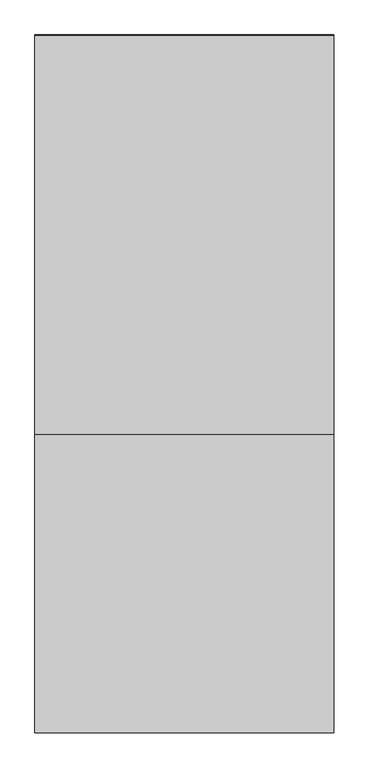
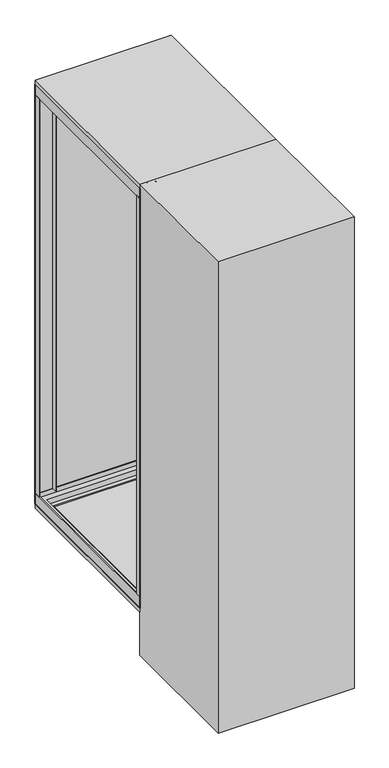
"""IFC4 building model written with IfcOpenShell, lengths in millimetres: electric distribution board geometry, НВО_ШкафНапольный_DKC : 800х600х2000 (ГхШхВ) мм."""

from ifc_helpers import new_model, si_unit, point, frame, frame_2d, origin, origin_with_axes, place, context, project, spatial, polyline, circle_curve, trimmed, segment, composite_curve, outline, extrude, faceted_brep, source, transform, mapped, element, save


def electric_distribution_board_93b78c7d(model_context):
    return source(origin(), model_context, "Body", "SolidModel", [
        extrude(outline(composite_curve([segment(polyline([(2185.2522548, -260.4361714), (2185.2522548, -252.7599567)]), True, "CONTINUOUS"), segment(trimmed(circle_curve(frame_2d((2194.6374537, -252.7599567)), 9.3851989), [point((2185.2522548, -252.7599567))], [point((2185.9237849, -249.2737072))], False, "CARTESIAN"), True, "CONTINUOUS"), segment(trimmed(circle_curve(frame_2d((2190.4697033, -251.0924825)), 4.8962555), [point((2185.9237849, -249.2737072))], [point((2190.0, -246.2188087))], False, "CARTESIAN"), True, "CONTINUOUS"), segment(trimmed(circle_curve(frame_2d((2189.5302967, -251.0924825)), 4.8962555), [point((2190.0, -246.2188087))], [point((2194.0762151, -249.2737072))], False, "CARTESIAN"), True, "CONTINUOUS"), segment(trimmed(circle_curve(frame_2d((2185.3625463, -252.7599567)), 9.3851989), [point((2194.0762151, -249.2737072))], [point((2194.7477452, -252.7599567))], False, "CARTESIAN"), True, "CONTINUOUS"), segment(polyline([(2194.7477452, -252.7599567), (2194.7477452, -260.4361714), (2185.2522548, -260.4361714)]), True, "CONTINUOUS")], self_intersect=False), holes=[composite_curve([segment(polyline([(2193.4305842, -256.8662202), (2193.4305842, -254.3065187)]), True, "CONTINUOUS"), segment(trimmed(circle_curve(frame_2d((2185.7124901, -254.3065187)), 7.7180942), [point((2193.4305842, -254.3065187))], [point((2192.8023319, -251.256417))], True, "CARTESIAN"), True, "CONTINUOUS"), segment(trimmed(circle_curve(frame_2d((2191.0797503, -251.9974842)), 1.8752248), [point((2192.8023319, -251.256417))], [point((2191.4095765, -250.1514932))], True, "CARTESIAN"), True, "CONTINUOUS"), segment(trimmed(circle_curve(frame_2d((2189.6204625, -260.1649135)), 10.1719966), [point((2191.4095765, -250.1514932))], [point((2190.0, -250.0))], True, "CARTESIAN"), True, "CONTINUOUS"), segment(trimmed(circle_curve(frame_2d((2190.3795375, -260.1649135)), 10.1719966), [point((2190.0, -250.0))], [point((2188.5904235, -250.1514932))], True, "CARTESIAN"), True, "CONTINUOUS"), segment(trimmed(circle_curve(frame_2d((2188.9202497, -251.9974842)), 1.8752248), [point((2188.5904235, -250.1514932))], [point((2187.1976681, -251.256417))], True, "CARTESIAN"), True, "CONTINUOUS"), segment(trimmed(circle_curve(frame_2d((2194.2875099, -254.3065187)), 7.7180942), [point((2187.1976681, -251.256417))], [point((2186.5694158, -254.3065187))], True, "CARTESIAN"), True, "CONTINUOUS"), segment(polyline([(2186.5694158, -254.3065187), (2186.5694158, -256.8662202), (2193.4305842, -256.8662202)]), True, "CONTINUOUS")], self_intersect=False)]), frame((0.0, -802.0, 0.0), z_axis=(0.0, 1.0, 0.0), x_axis=(0.0, 0.0, 1.0)), (0.0, 0.0, 1.0), 2.0),
        extrude(outline(polyline([(2194.7477452, -244.3848727), (2185.2522548, -244.3848727), (2185.2522548, -240.9908575), (2189.2401383, -240.9908575), (2185.2522548, -236.444158), (2185.2522548, -232.3120204), (2190.5384249, -238.1731846), (2194.7477452, -232.4434669), (2194.7477452, -235.0016173), (2190.2876655, -241.0245618), (2194.7477452, -241.0245618), (2194.7477452, -244.3848727)])), frame((0.0, -802.0, 0.0), z_axis=(0.0, 1.0, 0.0), x_axis=(0.0, 0.0, 1.0)), (0.0, 0.0, 1.0), 2.0),
        extrude(outline(composite_curve([segment(trimmed(circle_curve(frame_2d((2180.0078894, -224.3366932)), 14.8634972), [point((2194.0743349, -219.5347498))], [point((2194.6196872, -227.0604615))], False, "CARTESIAN"), True, "CONTINUOUS"), segment(trimmed(circle_curve(frame_2d((2182.9596787, -224.8869328)), 11.860861), [point((2194.6196872, -227.0604615))], [point((2193.3117677, -230.6760845))], False, "CARTESIAN"), True, "CONTINUOUS"), segment(trimmed(circle_curve(frame_2d((2188.8392604, -228.1749446)), 5.1243559), [point((2193.3117677, -230.6760845))], [point((2191.6421758, -232.46478))], False, "CARTESIAN"), True, "CONTINUOUS"), segment(trimmed(circle_curve(frame_2d((2190.1147571, -230.1270803)), 2.7924627), [point((2191.6421758, -232.46478))], [point((2190.0, -232.917184))], False, "CARTESIAN"), True, "CONTINUOUS"), segment(trimmed(circle_curve(frame_2d((2190.1764499, -228.6271352)), 4.2936759), [point((2190.0, -232.917184))], [point((2186.4762827, -230.8053031))], False, "CARTESIAN"), True, "CONTINUOUS"), segment(trimmed(circle_curve(frame_2d((2196.6930797, -224.7910077)), 11.8555763), [point((2186.4762827, -230.8053031))], [point((2185.7901742, -220.134685))], False, "CARTESIAN"), True, "CONTINUOUS"), segment(polyline([(2185.7901742, -220.134685), (2187.2760981, -219.6190256)]), True, "CONTINUOUS"), segment(trimmed(circle_curve(frame_2d((2193.3401731, -223.6307387)), 7.2709591), [point((2187.2760981, -219.6190256))], [point((2187.5933204, -228.0850098))], True, "CARTESIAN"), True, "CONTINUOUS"), segment(trimmed(circle_curve(frame_2d((2189.8135247, -226.3641737)), 2.8090184), [point((2187.5933204, -228.0850098))], [point((2190.8831991, -228.9615532))], True, "CARTESIAN"), True, "CONTINUOUS"), segment(trimmed(circle_curve(frame_2d((2189.3581346, -225.2583969)), 4.0048956), [point((2190.8831991, -228.9615532))], [point((2192.8847256, -227.1563813))], True, "CARTESIAN"), True, "CONTINUOUS"), segment(trimmed(circle_curve(frame_2d((2187.4021495, -224.2057006)), 6.2261671), [point((2192.8847256, -227.1563813))], [point((2192.1645049, -220.1950738))], True, "CARTESIAN"), True, "CONTINUOUS"), segment(polyline([(2192.1645049, -220.1950738), (2194.0743349, -219.5347498)]), True, "CONTINUOUS")], self_intersect=False)), frame((0.0, -802.0, 0.0), z_axis=(0.0, 1.0, 0.0), x_axis=(0.0, 0.0, 1.0)), (0.0, 0.0, 1.0), 2.0),
        extrude(outline(composite_curve([segment(trimmed(circle_curve(frame_2d((2193.9810141, -266.8556522)), 0.7712407), [point((2193.9810141, -266.0844115))], [point((2194.7522548, -266.8556522))], False, "CARTESIAN"), True, "CONTINUOUS"), segment(polyline([(2194.7522548, -266.8556522), (2194.7522548, -278.8921838)]), True, "CONTINUOUS"), segment(trimmed(circle_curve(frame_2d((2193.7482214, -278.8921838)), 1.0040334), [point((2194.7522548, -278.8921838))], [point((2193.7482214, -279.8962172))], False, "CARTESIAN"), True, "CONTINUOUS"), segment(polyline([(2193.7482214, -279.8962172), (2186.2525173, -279.8962172)]), True, "CONTINUOUS"), segment(trimmed(circle_curve(frame_2d((2186.2525173, -278.8959546)), 1.0002626), [point((2186.2525173, -279.8962172))], [point((2185.2522548, -278.8959546))], False, "CARTESIAN"), True, "CONTINUOUS"), segment(polyline([(2185.2522548, -278.8959546), (2185.2522548, -266.7257862)]), True, "CONTINUOUS"), segment(trimmed(circle_curve(frame_2d((2190.1985482, -266.7257862)), 4.9462935), [point((2185.2522548, -266.7257862))], [point((2187.2967122, -262.7201443))], False, "CARTESIAN"), True, "CONTINUOUS"), segment(polyline([(2187.2967122, -262.7201443), (2188.5784181, -262.7201443)]), True, "CONTINUOUS"), segment(trimmed(circle_curve(frame_2d((2193.048804, -267.7500222)), 6.7293403), [point((2188.5784181, -262.7201443))], [point((2188.5784181, -272.7799001))], True, "CARTESIAN"), True, "CONTINUOUS"), segment(polyline([(2188.5784181, -272.7799001), (2187.524661, -272.7799001)]), True, "CONTINUOUS"), segment(trimmed(circle_curve(frame_2d((2187.9883644, -270.8520843)), 1.9827998), [point((2187.524661, -272.7799001))], [point((2186.0055647, -270.8520843))], False, "CARTESIAN"), True, "CONTINUOUS"), segment(polyline([(2186.0055647, -270.8520843), (2186.0055647, -276.7056091), (2193.9989449, -276.7056091), (2193.9989449, -267.2764216), (2193.1225561, -267.2764216), (2193.1225561, -266.0844115), (2193.9810141, -266.0844115)]), True, "CONTINUOUS")], self_intersect=False)), frame((0.0, -802.0, 0.0), z_axis=(0.0, 1.0, 0.0), x_axis=(0.0, 0.0, 1.0)), (0.0, 0.0, 1.0), 2.0),
        extrude(outline(composite_curve([segment(polyline([(2189.1735802, -262.7201443), (2189.9609475, -262.7201443)]), True, "CONTINUOUS"), segment(trimmed(circle_curve(frame_2d((2195.0528216, -267.7500222)), 7.1572937), [point((2189.9609475, -262.7201443))], [point((2189.9609475, -272.7799001))], True, "CARTESIAN"), True, "CONTINUOUS"), segment(polyline([(2189.9609475, -272.7799001), (2189.1735802, -272.7799001)]), True, "CONTINUOUS"), segment(trimmed(circle_curve(frame_2d((2193.6469573, -267.7500222)), 6.7313279), [point((2189.1735802, -272.7799001))], [point((2189.1735802, -262.7201443))], False, "CARTESIAN"), True, "CONTINUOUS")], self_intersect=False)), frame((0.0, -802.0, 0.0), z_axis=(0.0, 1.0, 0.0), x_axis=(0.0, 0.0, 1.0)), (0.0, 0.0, 1.0), 2.0),
        extrude(outline(composite_curve([segment(trimmed(circle_curve(frame_2d((2185.6681942, -267.6745713)), 5.9267817), [point((2189.8365314, -263.4612939))], [point((2189.892123, -271.8321146))], False, "CARTESIAN"), True, "CONTINUOUS"), segment(polyline([(2189.892123, -271.8321146), (2189.3386839, -271.2786755)]), True, "CONTINUOUS"), segment(trimmed(circle_curve(frame_2d((2184.0800223, -267.6967539)), 6.3626791), [point((2189.3386839, -271.2786755))], [point((2189.3386839, -264.1148323))], True, "CARTESIAN"), True, "CONTINUOUS"), segment(polyline([(2189.3386839, -264.1148323), (2189.8365314, -263.4612939)]), True, "CONTINUOUS")], self_intersect=False)), frame((0.0, -802.0, 0.0), z_axis=(0.0, 1.0, 0.0), x_axis=(0.0, 0.0, 1.0)), (0.0, 0.0, 1.0), 2.0),
        extrude(outline(composite_curve([segment(trimmed(circle_curve(frame_2d((2183.5765057, -267.7053491)), 6.5304546), [point((2189.2646248, -264.4972128))], [point((2189.2646248, -270.9134855))], False, "CARTESIAN"), True, "CONTINUOUS"), segment(polyline([(2189.2646248, -270.9134855), (2188.9146088, -270.0681193)]), True, "CONTINUOUS"), segment(trimmed(circle_curve(frame_2d((2182.4429647, -267.6966214)), 6.8924726), [point((2188.9146088, -270.0681193))], [point((2188.9146088, -265.3251236))], True, "CARTESIAN"), True, "CONTINUOUS"), segment(polyline([(2188.9146088, -265.3251236), (2189.2646248, -264.4972128)]), True, "CONTINUOUS")], self_intersect=False)), frame((0.0, -802.0, 0.0), z_axis=(0.0, 1.0, 0.0), x_axis=(0.0, 0.0, 1.0)), (0.0, 0.0, 1.0), 2.0),
        extrude(outline(composite_curve([segment(polyline([(2189.9744254, -263.3219133), (2190.6884044, -262.6079342)]), True, "CONTINUOUS"), segment(trimmed(circle_curve(frame_2d((2185.6681942, -267.6745713)), 7.1325536), [point((2190.6884044, -262.6079342))], [point((2190.7458455, -272.683641))], False, "CARTESIAN"), True, "CONTINUOUS"), segment(polyline([(2190.7458455, -272.683641), (2190.031856, -271.9696515)]), True, "CONTINUOUS"), segment(trimmed(circle_curve(frame_2d((2185.6681942, -267.6745713)), 6.1228472), [point((2190.031856, -271.9696515))], [point((2189.9744254, -263.3219133))], True, "CARTESIAN"), True, "CONTINUOUS")], self_intersect=False)), frame((0.0, -802.0, 0.0), z_axis=(0.0, 1.0, 0.0), x_axis=(0.0, 0.0, 1.0)), (0.0, 0.0, 1.0), 2.0),
        extrude(outline(polyline([(298.0, -798.0), (223.0, -798.0), (223.0, -773.0), (225.0, -773.0), (225.0, -796.0), (296.0, -796.0), (296.0, -773.0), (298.0, -773.0), (298.0, -798.0)])), frame((0.0, 0.0, 270.0), z_axis=(0.0, 0.0, 1.0), x_axis=(1.0, 0.0, 0.0)), (0.0, 0.0, 1.0), 1860.0),
        extrude(outline(polyline([(-223.0, -798.0), (-298.0, -798.0), (-298.0, -773.0), (-296.0, -773.0), (-296.0, -796.0), (-225.0, -796.0), (-225.0, -773.0), (-223.0, -773.0), (-223.0, -798.0)])), frame((0.0, 0.0, 270.0), z_axis=(0.0, 0.0, 1.0), x_axis=(1.0, 0.0, 0.0)), (0.0, 0.0, 1.0), 1860.0),
        extrude(outline(polyline([(223.0, -2.0), (298.0, -2.0), (298.0, -27.0), (296.0, -27.0), (296.0, -4.0), (225.0, -4.0), (225.0, -27.0), (223.0, -27.0), (223.0, -2.0)])), frame((0.0, 0.0, 270.0), z_axis=(0.0, 0.0, 1.0), x_axis=(1.0, 0.0, 0.0)), (0.0, 0.0, 1.0), 1860.0),
        extrude(outline(polyline([(-298.0, -2.0), (-223.0, -2.0), (-223.0, -27.0), (-225.0, -27.0), (-225.0, -4.0), (-296.0, -4.0), (-296.0, -27.0), (-298.0, -27.0), (-298.0, -2.0)])), frame((0.0, 0.0, 270.0), z_axis=(0.0, 0.0, 1.0), x_axis=(1.0, 0.0, 0.0)), (0.0, 0.0, 1.0), 1860.0),
        extrude(outline(polyline([(300.0, 0.0), (300.0, -800.0), (-300.0, -800.0), (-300.0, 0.0), (300.0, 0.0)])), frame((0.0, 0.0, 2180.0), z_axis=(0.0, 0.0, 1.0), x_axis=(1.0, 0.0, 0.0)), (0.0, 0.0, 1.0), 20.0),
        extrude(outline(polyline([(300.0, 0.0), (300.0, -800.0), (-300.0, -800.0), (-300.0, 0.0), (300.0, 0.0)])), frame((0.0, 0.0, 200.0), z_axis=(0.0, 0.0, 1.0), x_axis=(1.0, 0.0, 0.0)), (0.0, 0.0, 1.0), 20.0),
        extrude(outline(polyline([(300.0, -802.0), (-300.0, -802.0), (-300.0, -800.0), (300.0, -800.0), (300.0, -802.0)])), frame((0.0, 0.0, 220.0), z_axis=(0.0, 0.0, 1.0), x_axis=(1.0, 0.0, 0.0)), (0.0, 0.0, 1.0), 1960.0),
        extrude(outline(polyline([(300.0, 0.0), (-300.0, 0.0), (-300.0, 2.0), (300.0, 2.0), (300.0, 0.0)])), frame((0.0, 0.0, 220.0), z_axis=(0.0, 0.0, 1.0), x_axis=(1.0, 0.0, 0.0)), (0.0, 0.0, 1.0), 1960.0),
        faceted_brep([(-248.0, -748.0, 2175.0), (-248.0, -748.0, 2180.0), (248.0, -748.0, 2180.0), (248.0, -748.0, 2175.0), (-273.0, -773.0, 2155.0), (-273.0, -773.0, 2175.0), (273.0, -773.0, 2175.0), (273.0, -773.0, 2155.0), (-293.0, -793.0, 2130.0), (-293.0, -793.0, 2155.0), (293.0, -793.0, 2155.0), (293.0, -793.0, 2130.0), (-298.0, -798.0, 2180.0), (-298.0, -798.0, 2130.0), (298.0, -798.0, 2130.0), (298.0, -798.0, 2180.0), (248.0, -52.0, 2180.0), (248.0, -52.0, 2175.0), (273.0, -27.0, 2175.0), (273.0, -27.0, 2155.0), (293.0, -7.0, 2155.0), (293.0, -7.0, 2130.0), (298.0, -2.0, 2130.0), (298.0, -2.0, 2180.0), (-248.0, -52.0, 2180.0), (-248.0, -52.0, 2175.0), (-273.0, -27.0, 2175.0), (-273.0, -27.0, 2155.0), (-293.0, -7.0, 2155.0), (-293.0, -7.0, 2130.0), (-298.0, -2.0, 2130.0), (-298.0, -2.0, 2180.0)], [[[0, 1, 2, 3]], [[4, 5, 6, 7]], [[8, 9, 10, 11]], [[12, 13, 14, 15]], [[3, 2, 16, 17]], [[7, 6, 18, 19]], [[11, 10, 20, 21]], [[15, 14, 22, 23]], [[17, 16, 24, 25]], [[19, 18, 26, 27]], [[21, 20, 28, 29]], [[23, 22, 30, 31]], [[25, 24, 1, 0]], [[5, 26, 18, 6], [3, 17, 25, 0]], [[27, 26, 5, 4]], [[9, 28, 20, 10], [7, 19, 27, 4]], [[29, 28, 9, 8]], [[13, 30, 22, 14], [11, 21, 29, 8]], [[31, 30, 13, 12]], [[15, 23, 31, 12], [1, 24, 16, 2]]]),
        faceted_brep([(-293.0, -7.0, 250.0), (-293.0, -7.0, 270.0), (-293.0, -793.0, 270.0), (-293.0, -793.0, 250.0), (-268.0, -32.0, 225.0), (-268.0, -32.0, 250.0), (-268.0, -768.0, 250.0), (-268.0, -768.0, 225.0), (-248.0, -52.0, 220.0), (-248.0, -52.0, 225.0), (-248.0, -748.0, 225.0), (-248.0, -748.0, 220.0), (-298.0, -2.0, 270.0), (-298.0, -2.0, 220.0), (-298.0, -798.0, 220.0), (-298.0, -798.0, 270.0), (293.0, -793.0, 270.0), (293.0, -793.0, 250.0), (268.0, -768.0, 250.0), (268.0, -768.0, 225.0), (248.0, -748.0, 225.0), (248.0, -748.0, 220.0), (298.0, -798.0, 220.0), (298.0, -798.0, 270.0), (293.0, -7.0, 270.0), (293.0, -7.0, 250.0), (268.0, -32.0, 250.0), (268.0, -32.0, 225.0), (248.0, -52.0, 225.0), (248.0, -52.0, 220.0), (298.0, -2.0, 220.0), (298.0, -2.0, 270.0)], [[[0, 1, 2, 3]], [[4, 5, 6, 7]], [[8, 9, 10, 11]], [[12, 13, 14, 15]], [[3, 2, 16, 17]], [[7, 6, 18, 19]], [[11, 10, 20, 21]], [[15, 14, 22, 23]], [[17, 16, 24, 25]], [[19, 18, 26, 27]], [[21, 20, 28, 29]], [[23, 22, 30, 31]], [[15, 23, 31, 12], [1, 24, 16, 2]], [[25, 24, 1, 0]], [[3, 17, 25, 0], [5, 26, 18, 6]], [[27, 26, 5, 4]], [[7, 19, 27, 4], [9, 28, 20, 10]], [[29, 28, 9, 8]], [[13, 30, 22, 14], [11, 21, 29, 8]], [[31, 30, 13, 12]]]),
        extrude(outline(composite_curve([segment(polyline([(-802.0, 1300.0), (-802.0, 1100.0), (-804.0, 1100.0)]), True, "CONTINUOUS"), segment(trimmed(circle_curve(frame_2d((-804.0, 1108.0)), 8.0), [point((-804.0, 1100.0))], [point((-812.0, 1108.0))], False, "CARTESIAN"), True, "CONTINUOUS"), segment(polyline([(-812.0, 1108.0), (-812.0, 1292.0)]), True, "CONTINUOUS"), segment(trimmed(circle_curve(frame_2d((-804.0, 1292.0)), 8.0), [point((-812.0, 1292.0))], [point((-804.0, 1300.0))], False, "CARTESIAN"), True, "CONTINUOUS"), segment(polyline([(-804.0, 1300.0), (-802.0, 1300.0)]), True, "CONTINUOUS")], self_intersect=False)), frame((-270.0, 0.0, 0.0), z_axis=(1.0, 0.0, 0.0), x_axis=(0.0, 1.0, 0.0)), (0.0, 0.0, 1.0), 30.0),
        extrude(outline(polyline([(300.0, -1400.0), (-300.0, -1400.0), (-300.0, -800.0), (300.0, -800.0), (300.0, -1400.0)])), origin_with_axes(), (0.0, 0.0, 1.0), 2200.0),
    ])


if __name__ == "__main__":
    model = new_model("IFC4")
    model_context = context("Model", 3, world=origin())
    ifc_project = project(units=[si_unit("LENGTHUNIT", "METRE", prefix="MILLI")], contexts=[model_context])
    site = spatial("IfcSite", under=ifc_project)
    building = spatial("IfcBuilding", under=site)
    placement = place(None, origin())
    electric_distribution_board_shape = electric_distribution_board_93b78c7d(model_context)
    element("IfcElectricDistributionBoard", 1, ObjectType="НВО_ШкафНапольный_DKC : 800х600х2000 (ГхШхВ) мм", at=placement, inside=building, context=model_context, shape_type="MappedRepresentation", body=[
        mapped(electric_distribution_board_shape, transform((0.0, 0.0, 0.0), x_axis=(1.0, 0.0, 0.0), y_axis=(0.0, 1.0, 0.0), z_axis=(0.0, 0.0, 1.0))),
    ])
    save(model, "model.ifc")
